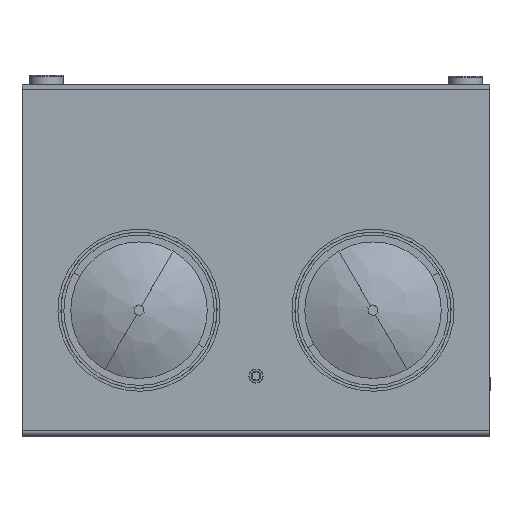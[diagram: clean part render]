
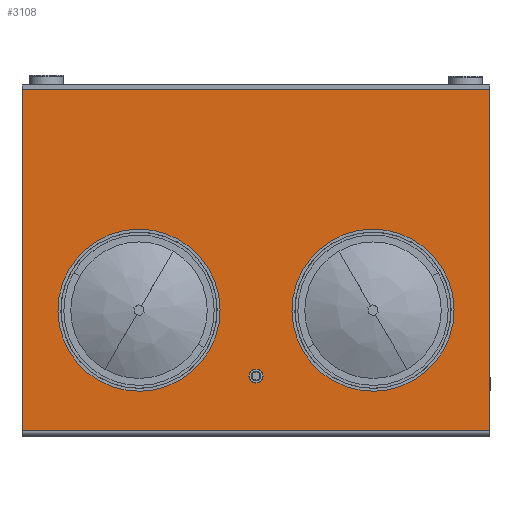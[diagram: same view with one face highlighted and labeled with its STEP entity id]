
A CAD part, top view. The second image highlights one B-rep face of the part: STEP entity #3108.
In plain terms, the highlighted planar face has unit normal (0, 0, 1) as drawn and (-1, 0, 0) by its records, which use the part's own axes.
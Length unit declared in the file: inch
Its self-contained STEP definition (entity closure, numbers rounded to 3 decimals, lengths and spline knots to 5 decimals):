
#10 = CARTESIAN_POINT ( 'NONE',  ( -0.375, 0.125, 48. ) ) ;
#80 = VERTEX_POINT ( 'NONE', #2805 ) ;
#85 = VERTEX_POINT ( 'NONE', #5317 ) ;
#108 = DIRECTION ( 'NONE',  ( 0., 0., 1. ) ) ;
#276 = DIRECTION ( 'NONE',  ( 0., 0., -1. ) ) ;
#351 = DIRECTION ( 'NONE',  ( 1., 0., 0. ) ) ;
#474 = CARTESIAN_POINT ( 'NONE',  ( -0.375, 5.75, 24.72 ) ) ;
#491 = AXIS2_PLACEMENT_3D ( 'NONE', #6297, #5175, #108 ) ;
#520 = DIRECTION ( 'NONE',  ( 0., 0., -1. ) ) ;
#574 = EDGE_CURVE ( 'NONE', #6451, #6005, #6032, .T. ) ;
#638 = EDGE_CURVE ( 'NONE', #6005, #6451, #8015, .T. ) ;
#749 = VECTOR ( 'NONE', #2021, 39.37008 ) ;
#781 = CARTESIAN_POINT ( 'NONE',  ( -0.375, 0.125, 0. ) ) ;
#1022 = DIRECTION ( 'NONE',  ( 0., -1., 0. ) ) ;
#1065 = LINE ( 'NONE', #2832, #6837 ) ;
#1087 = EDGE_LOOP ( 'NONE', ( #5132, #3275 ) ) ;
#1237 = EDGE_LOOP ( 'NONE', ( #5932, #3670 ) ) ;
#1375 = DIRECTION ( 'NONE',  ( -1., 0., 0. ) ) ;
#1495 = EDGE_CURVE ( 'NONE', #2091, #5435, #1065, .T. ) ;
#1617 = EDGE_CURVE ( 'NONE', #80, #2593, #1947, .T. ) ;
#1646 = EDGE_CURVE ( 'NONE', #2593, #80, #4433, .T. ) ;
#1947 = CIRCLE ( 'NONE', #491, 7. ) ;
#2021 = DIRECTION ( 'NONE',  ( 0., -1., 0. ) ) ;
#2025 = LINE ( 'NONE', #10, #4062 ) ;
#2091 = VERTEX_POINT ( 'NONE', #2212 ) ;
#2212 = CARTESIAN_POINT ( 'NONE',  ( -0.375, 35.12, 0. ) ) ;
#2276 = EDGE_CURVE ( 'NONE', #6092, #2091, #6792, .T. ) ;
#2291 = EDGE_CURVE ( 'NONE', #3506, #85, #6035, .T. ) ;
#2427 = DIRECTION ( 'NONE',  ( 0., 0., 1. ) ) ;
#2461 = CIRCLE ( 'NONE', #5344, 7. ) ;
#2490 = AXIS2_PLACEMENT_3D ( 'NONE', #5044, #7567, #4411 ) ;
#2593 = VERTEX_POINT ( 'NONE', #4384 ) ;
#2692 = CARTESIAN_POINT ( 'NONE',  ( -0.375, 12.5, 36. ) ) ;
#2805 = CARTESIAN_POINT ( 'NONE',  ( -0.375, 12.5, 29. ) ) ;
#2814 = FACE_BOUND ( 'NONE', #1237, .T. ) ;
#2825 = DIRECTION ( 'NONE',  ( -1., 0., 0. ) ) ;
#2832 = CARTESIAN_POINT ( 'NONE',  ( -0.375, 0., 0. ) ) ;
#2845 = CARTESIAN_POINT ( 'NONE',  ( -0.375, 12.5, 5. ) ) ;
#2897 = FACE_OUTER_BOUND ( 'NONE', #3086, .T. ) ;
#2979 = CARTESIAN_POINT ( 'NONE',  ( -0.375, 0.125, 48. ) ) ;
#3033 = CARTESIAN_POINT ( 'NONE',  ( -0.375, 12.5, 12. ) ) ;
#3086 = EDGE_LOOP ( 'NONE', ( #6971, #6858, #3492, #4753 ) ) ;
#3108 = ADVANCED_FACE ( 'NONE', ( #4087, #5994, #2814, #2897 ), #3454, .F. ) ;
#3241 = DIRECTION ( 'NONE',  ( 0., 0., -1. ) ) ;
#3275 = ORIENTED_EDGE ( 'NONE', *, *, #638, .F. ) ;
#3454 = PLANE ( 'NONE',  #4485 ) ;
#3492 = ORIENTED_EDGE ( 'NONE', *, *, #5988, .F. ) ;
#3506 = VERTEX_POINT ( 'NONE', #2845 ) ;
#3580 = EDGE_LOOP ( 'NONE', ( #6230, #7467 ) ) ;
#3652 = AXIS2_PLACEMENT_3D ( 'NONE', #3033, #8085, #2427 ) ;
#3670 = ORIENTED_EDGE ( 'NONE', *, *, #1617, .F. ) ;
#3910 = AXIS2_PLACEMENT_3D ( 'NONE', #7868, #2825, #7947 ) ;
#4062 = VECTOR ( 'NONE', #3241, 39.37008 ) ;
#4087 = FACE_BOUND ( 'NONE', #1087, .T. ) ;
#4174 = VECTOR ( 'NONE', #520, 39.37008 ) ;
#4324 = EDGE_CURVE ( 'NONE', #5020, #5435, #2025, .T. ) ;
#4384 = CARTESIAN_POINT ( 'NONE',  ( -0.375, 12.5, 43. ) ) ;
#4411 = DIRECTION ( 'NONE',  ( 0., 0., 1. ) ) ;
#4433 = CIRCLE ( 'NONE', #4709, 7. ) ;
#4485 = AXIS2_PLACEMENT_3D ( 'NONE', #7151, #351, #276 ) ;
#4709 = AXIS2_PLACEMENT_3D ( 'NONE', #2692, #1375, #7068 ) ;
#4753 = ORIENTED_EDGE ( 'NONE', *, *, #2276, .T. ) ;
#5020 = VERTEX_POINT ( 'NONE', #2979 ) ;
#5044 = CARTESIAN_POINT ( 'NONE',  ( -0.375, 5.75, 24. ) ) ;
#5132 = ORIENTED_EDGE ( 'NONE', *, *, #574, .F. ) ;
#5152 = LINE ( 'NONE', #6391, #749 ) ;
#5175 = DIRECTION ( 'NONE',  ( -1., 0., 0. ) ) ;
#5188 = CARTESIAN_POINT ( 'NONE',  ( -0.375, 5.75, 23.28 ) ) ;
#5317 = CARTESIAN_POINT ( 'NONE',  ( -0.375, 12.5, 19. ) ) ;
#5342 = CARTESIAN_POINT ( 'NONE',  ( -0.375, 12.5, 12. ) ) ;
#5344 = AXIS2_PLACEMENT_3D ( 'NONE', #5342, #7371, #7869 ) ;
#5435 = VERTEX_POINT ( 'NONE', #781 ) ;
#5563 = CARTESIAN_POINT ( 'NONE',  ( -0.375, 35.12, 48. ) ) ;
#5851 = CARTESIAN_POINT ( 'NONE',  ( -0.375, 35.12, 48. ) ) ;
#5932 = ORIENTED_EDGE ( 'NONE', *, *, #1646, .F. ) ;
#5988 = EDGE_CURVE ( 'NONE', #6092, #5020, #5152, .T. ) ;
#5994 = FACE_BOUND ( 'NONE', #3580, .T. ) ;
#6005 = VERTEX_POINT ( 'NONE', #5188 ) ;
#6032 = CIRCLE ( 'NONE', #2490, 0.72 ) ;
#6035 = CIRCLE ( 'NONE', #3652, 7. ) ;
#6092 = VERTEX_POINT ( 'NONE', #5851 ) ;
#6128 = EDGE_CURVE ( 'NONE', #85, #3506, #2461, .T. ) ;
#6230 = ORIENTED_EDGE ( 'NONE', *, *, #6128, .F. ) ;
#6297 = CARTESIAN_POINT ( 'NONE',  ( -0.375, 12.5, 36. ) ) ;
#6391 = CARTESIAN_POINT ( 'NONE',  ( -0.375, 0., 48. ) ) ;
#6451 = VERTEX_POINT ( 'NONE', #474 ) ;
#6792 = LINE ( 'NONE', #5563, #4174 ) ;
#6837 = VECTOR ( 'NONE', #1022, 39.37008 ) ;
#6858 = ORIENTED_EDGE ( 'NONE', *, *, #4324, .F. ) ;
#6971 = ORIENTED_EDGE ( 'NONE', *, *, #1495, .T. ) ;
#7068 = DIRECTION ( 'NONE',  ( 0., 0., 1. ) ) ;
#7151 = CARTESIAN_POINT ( 'NONE',  ( -0.375, 0., 48. ) ) ;
#7371 = DIRECTION ( 'NONE',  ( -1., 0., 0. ) ) ;
#7467 = ORIENTED_EDGE ( 'NONE', *, *, #2291, .F. ) ;
#7567 = DIRECTION ( 'NONE',  ( -1., 0., 0. ) ) ;
#7868 = CARTESIAN_POINT ( 'NONE',  ( -0.375, 5.75, 24. ) ) ;
#7869 = DIRECTION ( 'NONE',  ( 0., 0., 1. ) ) ;
#7947 = DIRECTION ( 'NONE',  ( 0., 0., 1. ) ) ;
#8015 = CIRCLE ( 'NONE', #3910, 0.72 ) ;
#8085 = DIRECTION ( 'NONE',  ( -1., 0., 0. ) ) ;
